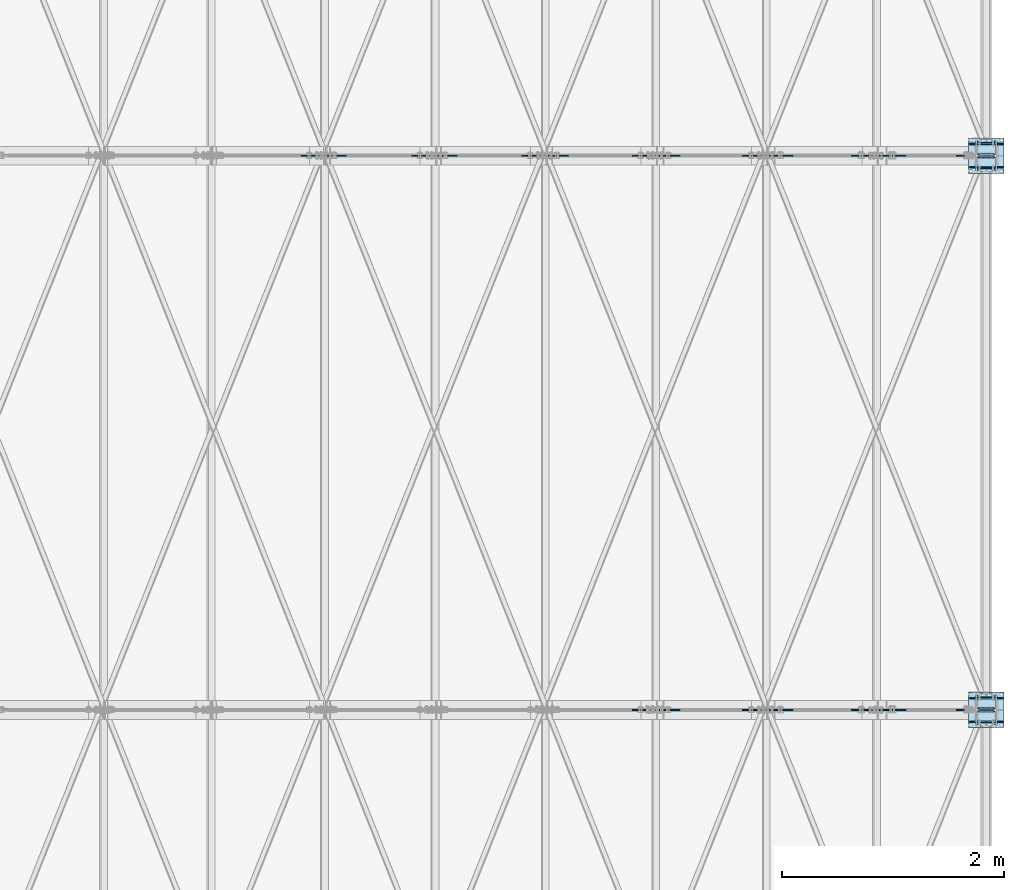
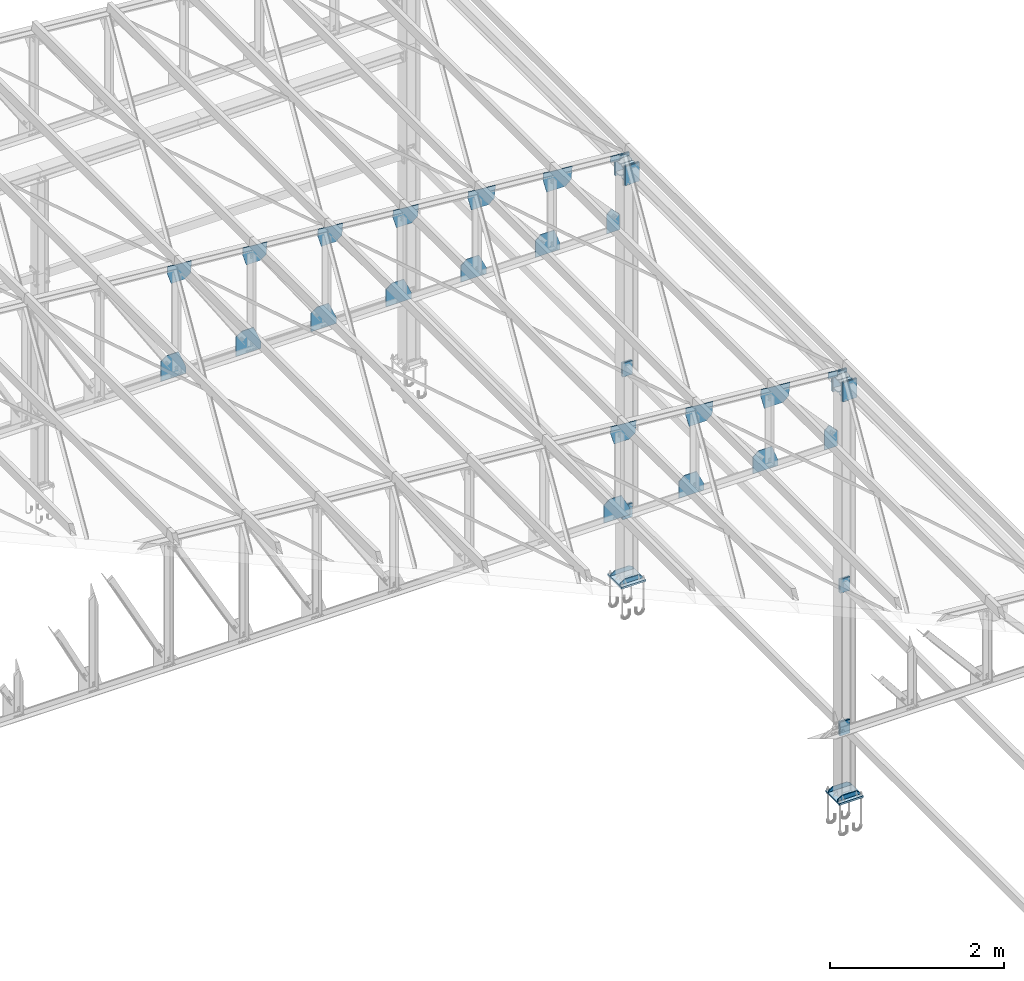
# One storey, part 8 of 251: 52 plates.
"""IFC4 building model written with IfcOpenShell, lengths in metres."""

from ifc_helpers import new_model, si_unit, frame, origin_with_axes, place, context, project, spatial, polyline, outline, extrude, type_object, element, save


model = new_model("IFC4")

# Units and contexts
model_context = context("Model", 3, precision=1e-05, world=origin_with_axes())
ifc_project = project(units=[si_unit("LENGTHUNIT", "METRE"), si_unit("AREAUNIT", "SQUARE_METRE"), si_unit("VOLUMEUNIT", "CUBIC_METRE"), si_unit("MASSUNIT", "GRAM", prefix="KILO"), si_unit("TIMEUNIT", "SECOND"), si_unit("PLANEANGLEUNIT", "RADIAN"), si_unit("SOLIDANGLEUNIT", "STERADIAN"), si_unit("THERMODYNAMICTEMPERATUREUNIT", "DEGREE_CELSIUS")], contexts=[model_context])

# Site, building, storey
placement_1 = place(None, origin_with_axes())
site = spatial("IfcSite", under=ifc_project, at=placement_1, Name="Italia", CompositionType="ELEMENT")
building = spatial("IfcBuilding", under=site, at=placement_1, Name="Deposito", CompositionType="ELEMENT")
storey = spatial("IfcBuildingStorey", under=building, at=placement_1, Name="Storey 0", CompositionType="ELEMENT", Elevation=0.0)

# Plates
plate_type_1 = type_object("IfcPlateType", Name="Collegamenti -001_-002 -002_-001 -002_-003 -003_-002 -003_-004 -004_-003 -004_-008 -008_-004 -009_-010 -010_-009 -010_-011 -011_-010 -011_-012 -012_-011 -012_-016 -016_-012", PredefinedType="SHEET")
placement_2 = place(placement_1, origin_with_axes())
plate_1_placement = place(placement_2, origin_with_axes())
element("IfcPlate", 1, at=plate_1_placement, inside=storey, type_object=plate_type_1, Name="Collegamenti -001_-002 -002_-001 -002_-003 -003_-002 -003_-004 -004_-003 -004_-008 -008_-004 -009_-010 -010_-009 -010_-011 -011_-010 -011_-012 -012_-011 -012_-016 -016_-012", context=model_context, shape_type="SweptSolid", body=[
    extrude(outline(polyline([(0.0, 0.0), (-0.132, 0.0), (-0.132, 0.192), (0.0, 0.192), (0.0, 0.0)])), frame((19.934, 9.982, 0.904), z_axis=(0.0, 1.0, 0.0), x_axis=(-1.0, 0.0, 0.0)), (0.0, 0.0, 1.0), 0.0149994),
])
plate_type_2 = type_object("IfcPlateType", Name="Collegamenti -001_-002 -002_-001 -002_-003 -003_-002 -003_-004 -004_-003 -004_-008 -008_-004 -009_-010 -010_-009 -010_-011 -011_-010 -011_-012 -012_-011 -012_-016 -016_-012", PredefinedType="SHEET")
plate_2_placement = place(placement_2, origin_with_axes())
element("IfcPlate", 2, at=plate_2_placement, inside=storey, type_object=plate_type_2, Name="Collegamenti -001_-002 -002_-001 -002_-003 -003_-002 -003_-004 -004_-003 -004_-008 -008_-004 -009_-010 -010_-009 -010_-011 -011_-010 -011_-012 -012_-011 -012_-016 -016_-012", context=model_context, shape_type="SweptSolid", body=[
    extrude(outline(polyline([(0.0, 0.0), (-0.132, 0.0), (-0.132, 0.192), (0.0, 0.192), (0.0, 0.0)])), frame((20.066, 10.018, 0.904), z_axis=(0.0, -1.0, 0.0), x_axis=(1.0, 0.0, 0.0)), (0.0, 0.0, 1.0), 0.0149994),
])
plate_type_3 = type_object("IfcPlateType", Name="Collegamenti -001_-002 -002_-001 -002_-003 -003_-002 -003_-004 -004_-003 -004_-008 -008_-004 -009_-010 -010_-009 -010_-011 -011_-010 -011_-012 -012_-011 -012_-016 -016_-012", PredefinedType="SHEET")
plate_3_placement = place(placement_2, origin_with_axes())
element("IfcPlate", 3, at=plate_3_placement, inside=storey, type_object=plate_type_3, Name="Collegamenti -001_-002 -002_-001 -002_-003 -003_-002 -003_-004 -004_-003 -004_-008 -008_-004 -009_-010 -010_-009 -010_-011 -011_-010 -011_-012 -012_-011 -012_-016 -016_-012", context=model_context, shape_type="SweptSolid", body=[
    extrude(outline(polyline([(0.0, 0.0), (-0.132, 0.0), (-0.132, 0.192), (0.0, 0.192), (0.0, 0.0)])), frame((19.934, 14.982, 0.904), z_axis=(0.0, 1.0, 0.0), x_axis=(-1.0, 0.0, 0.0)), (0.0, 0.0, 1.0), 0.0149994),
])
plate_type_4 = type_object("IfcPlateType", Name="Collegamenti -001_-002 -002_-001 -002_-003 -003_-002 -003_-004 -004_-003 -004_-008 -008_-004 -009_-010 -010_-009 -010_-011 -011_-010 -011_-012 -012_-011 -012_-016 -016_-012", PredefinedType="SHEET")
plate_4_placement = place(placement_2, origin_with_axes())
element("IfcPlate", 4, at=plate_4_placement, inside=storey, type_object=plate_type_4, Name="Collegamenti -001_-002 -002_-001 -002_-003 -003_-002 -003_-004 -004_-003 -004_-008 -008_-004 -009_-010 -010_-009 -010_-011 -011_-010 -011_-012 -012_-011 -012_-016 -016_-012", context=model_context, shape_type="SweptSolid", body=[
    extrude(outline(polyline([(0.0, 0.0), (-0.132, 0.0), (-0.132, 0.192), (0.0, 0.192), (0.0, 0.0)])), frame((20.066, 15.018, 0.904), z_axis=(0.0, -1.0, 0.0), x_axis=(1.0, 0.0, 0.0)), (0.0, 0.0, 1.0), 0.0149994),
])
plate_type_5 = type_object("IfcPlateType", Name="Collegamenti -001_-002 -002_-001 -002_-003 -003_-002 -003_-004 -004_-003 -004_-008 -008_-004 -009_-010 -010_-009 -010_-011 -011_-010 -011_-012 -012_-011 -012_-016 -016_-012", PredefinedType="SHEET")
plate_5_placement = place(placement_2, origin_with_axes())
element("IfcPlate", 5, at=plate_5_placement, inside=storey, type_object=plate_type_5, Name="Collegamenti -001_-002 -002_-001 -002_-003 -003_-002 -003_-004 -004_-003 -004_-008 -008_-004 -009_-010 -010_-009 -010_-011 -011_-010 -011_-012 -012_-011 -012_-016 -016_-012", context=model_context, shape_type="SweptSolid", body=[
    extrude(outline(polyline([(0.0, 0.0), (-0.132, 0.0), (-0.132, 0.192), (0.0, 0.192), (0.0, 0.0)])), frame((19.934, 9.982, 2.904), z_axis=(0.0, 1.0, 0.0), x_axis=(-1.0, 0.0, 0.0)), (0.0, 0.0, 1.0), 0.0149994),
])
plate_type_6 = type_object("IfcPlateType", Name="Collegamenti -001_-002 -002_-001 -002_-003 -003_-002 -003_-004 -004_-003 -004_-008 -008_-004 -009_-010 -010_-009 -010_-011 -011_-010 -011_-012 -012_-011 -012_-016 -016_-012", PredefinedType="SHEET")
plate_6_placement = place(placement_2, origin_with_axes())
element("IfcPlate", 6, at=plate_6_placement, inside=storey, type_object=plate_type_6, Name="Collegamenti -001_-002 -002_-001 -002_-003 -003_-002 -003_-004 -004_-003 -004_-008 -008_-004 -009_-010 -010_-009 -010_-011 -011_-010 -011_-012 -012_-011 -012_-016 -016_-012", context=model_context, shape_type="SweptSolid", body=[
    extrude(outline(polyline([(0.0, 0.0), (-0.132, 0.0), (-0.132, 0.192), (0.0, 0.192), (0.0, 0.0)])), frame((20.066, 10.018, 2.904), z_axis=(0.0, -1.0, 0.0), x_axis=(1.0, 0.0, 0.0)), (0.0, 0.0, 1.0), 0.0149994),
])
plate_type_7 = type_object("IfcPlateType", Name="Collegamenti -001_-002 -002_-001 -002_-003 -003_-002 -003_-004 -004_-003 -004_-008 -008_-004 -009_-010 -010_-009 -010_-011 -011_-010 -011_-012 -012_-011 -012_-016 -016_-012", PredefinedType="SHEET")
plate_7_placement = place(placement_2, origin_with_axes())
element("IfcPlate", 7, at=plate_7_placement, inside=storey, type_object=plate_type_7, Name="Collegamenti -001_-002 -002_-001 -002_-003 -003_-002 -003_-004 -004_-003 -004_-008 -008_-004 -009_-010 -010_-009 -010_-011 -011_-010 -011_-012 -012_-011 -012_-016 -016_-012", context=model_context, shape_type="SweptSolid", body=[
    extrude(outline(polyline([(0.0, 0.0), (-0.132, 0.0), (-0.132, 0.192), (0.0, 0.192), (0.0, 0.0)])), frame((19.934, 14.982, 2.904), z_axis=(0.0, 1.0, 0.0), x_axis=(-1.0, 0.0, 0.0)), (0.0, 0.0, 1.0), 0.0149994),
])
plate_type_8 = type_object("IfcPlateType", Name="Collegamenti -001_-002 -002_-001 -002_-003 -003_-002 -003_-004 -004_-003 -004_-008 -008_-004 -009_-010 -010_-009 -010_-011 -011_-010 -011_-012 -012_-011 -012_-016 -016_-012", PredefinedType="SHEET")
plate_8_placement = place(placement_2, origin_with_axes())
element("IfcPlate", 8, at=plate_8_placement, inside=storey, type_object=plate_type_8, Name="Collegamenti -001_-002 -002_-001 -002_-003 -003_-002 -003_-004 -004_-003 -004_-008 -008_-004 -009_-010 -010_-009 -010_-011 -011_-010 -011_-012 -012_-011 -012_-016 -016_-012", context=model_context, shape_type="SweptSolid", body=[
    extrude(outline(polyline([(0.0, 0.0), (-0.132, 0.0), (-0.132, 0.192), (0.0, 0.192), (0.0, 0.0)])), frame((20.066, 15.018, 2.904), z_axis=(0.0, -1.0, 0.0), x_axis=(1.0, 0.0, 0.0)), (0.0, 0.0, 1.0), 0.0149994),
])
plate_type_9 = type_object("IfcPlateType", Name="Collegamenti -064_-065 -065_-064 -065_-066 -066_-065 -066_-067 -067_-066 -067_-068 -068_-067", PredefinedType="SHEET")
plate_9_placement = place(placement_2, origin_with_axes())
element("IfcPlate", 9, at=plate_9_placement, inside=storey, type_object=plate_type_9, Name="Collegamenti -064_-065 -065_-064 -065_-066 -066_-065 -066_-067 -067_-066 -067_-068 -068_-067", context=model_context, shape_type="SweptSolid", body=[
    extrude(outline(polyline([(0.0, 0.0), (-0.189999, 0.0), (-0.189999, 0.266001), (0.0, 0.266001), (0.0, 0.0)])), frame((19.905, 9.885, 5.667), z_axis=(0.0, 1.0, 0.0), x_axis=(-1.0, 0.0, 0.0)), (0.0, 0.0, 1.0), 0.0149994),
])
plate_type_10 = type_object("IfcPlateType", Name="Collegamenti -064_-065 -065_-064 -065_-066 -066_-065 -066_-067 -067_-066 -067_-068 -068_-067", PredefinedType="SHEET")
plate_10_placement = place(placement_2, origin_with_axes())
element("IfcPlate", 10, at=plate_10_placement, inside=storey, type_object=plate_type_10, Name="Collegamenti -064_-065 -065_-064 -065_-066 -066_-065 -066_-067 -067_-066 -067_-068 -068_-067", context=model_context, shape_type="SweptSolid", body=[
    extrude(outline(polyline([(0.0, 0.0), (-0.188999, 0.0), (-0.188999, 0.266001), (0.0, 0.266001), (0.0, 0.0)])), frame((19.9055, 9.87, 5.667), z_axis=(0.0, 1.0, 0.0), x_axis=(-1.0, 0.0, 0.0)), (0.0, 0.0, 1.0), 0.0150003),
])
plate_type_11 = type_object("IfcPlateType", Name="Collegamenti -064_-065 -065_-064 -065_-066 -066_-065 -066_-067 -067_-066 -067_-068 -068_-067", PredefinedType="SHEET")
plate_11_placement = place(placement_2, origin_with_axes())
element("IfcPlate", 11, at=plate_11_placement, inside=storey, type_object=plate_type_11, Name="Collegamenti -064_-065 -065_-064 -065_-066 -066_-065 -066_-067 -067_-066 -067_-068 -068_-067", context=model_context, shape_type="SweptSolid", body=[
    extrude(outline(polyline([(0.0, 0.0), (0.0790005, 0.0), (0.0970001, -0.0179996), (0.0970001, -0.151999), (0.0790005, -0.169998), (0.0, -0.169998), (0.0, 0.0)])), frame((19.915, 9.9, 5.875), z_axis=(0.0, 0.0, 1.0), x_axis=(0.0, 1.0, 0.0)), (0.0, 0.0, 1.0), 0.0150003),
])
plate_type_12 = type_object("IfcPlateType", Name="Collegamenti -064_-065 -065_-064 -065_-066 -066_-065 -066_-067 -067_-066 -067_-068 -068_-067", PredefinedType="SHEET")
plate_12_placement = place(placement_2, origin_with_axes())
element("IfcPlate", 12, at=plate_12_placement, inside=storey, type_object=plate_type_12, Name="Collegamenti -064_-065 -065_-064 -065_-066 -066_-065 -066_-067 -067_-066 -067_-068 -068_-067", context=model_context, shape_type="SweptSolid", body=[
    extrude(outline(polyline([(0.0, 0.0), (0.0790005, 0.0), (0.0970001, -0.0179996), (0.0970001, -0.151999), (0.0790005, -0.169998), (0.0, -0.169998), (0.0, 0.0)])), frame((19.915, 9.9, 5.71), z_axis=(0.0, 0.0, 1.0), x_axis=(0.0, 1.0, 0.0)), (0.0, 0.0, 1.0), 0.0150003),
])
plate_type_13 = type_object("IfcPlateType", Name="Collegamenti -064_-065 -065_-064 -065_-066 -066_-065 -066_-067 -067_-066 -067_-068 -068_-067", PredefinedType="SHEET")
plate_13_placement = place(placement_2, origin_with_axes())
element("IfcPlate", 13, at=plate_13_placement, inside=storey, type_object=plate_type_13, Name="Collegamenti -064_-065 -065_-064 -065_-066 -066_-065 -066_-067 -067_-066 -067_-068 -068_-067", context=model_context, shape_type="SweptSolid", body=[
    extrude(outline(polyline([(0.0, 0.0), (-0.189999, 0.0), (-0.189999, 0.266001), (0.0, 0.266001), (0.0, 0.0)])), frame((20.095, 10.115, 5.667), z_axis=(0.0, -1.0, 0.0), x_axis=(1.0, 0.0, 0.0)), (0.0, 0.0, 1.0), 0.0149994),
])
plate_type_14 = type_object("IfcPlateType", Name="Collegamenti -064_-065 -065_-064 -065_-066 -066_-065 -066_-067 -067_-066 -067_-068 -068_-067", PredefinedType="SHEET")
plate_14_placement = place(placement_2, origin_with_axes())
element("IfcPlate", 14, at=plate_14_placement, inside=storey, type_object=plate_type_14, Name="Collegamenti -064_-065 -065_-064 -065_-066 -066_-065 -066_-067 -067_-066 -067_-068 -068_-067", context=model_context, shape_type="SweptSolid", body=[
    extrude(outline(polyline([(0.0, 0.0), (-0.188999, 0.0), (-0.188999, 0.266001), (0.0, 0.266001), (0.0, 0.0)])), frame((20.0945, 10.13, 5.667), z_axis=(0.0, -1.0, 0.0), x_axis=(1.0, 0.0, 0.0)), (0.0, 0.0, 1.0), 0.0150003),
])
plate_type_15 = type_object("IfcPlateType", Name="Collegamenti -064_-065 -065_-064 -065_-066 -066_-065 -066_-067 -067_-066 -067_-068 -068_-067", PredefinedType="SHEET")
plate_15_placement = place(placement_2, origin_with_axes())
element("IfcPlate", 15, at=plate_15_placement, inside=storey, type_object=plate_type_15, Name="Collegamenti -064_-065 -065_-064 -065_-066 -066_-065 -066_-067 -067_-066 -067_-068 -068_-067", context=model_context, shape_type="SweptSolid", body=[
    extrude(outline(polyline([(0.0, 0.0), (-0.0790005, 0.0), (-0.0970001, 0.0179996), (-0.0970001, 0.151999), (-0.0790005, 0.169998), (0.0, 0.169998), (0.0, 0.0)])), frame((20.085, 10.1, 5.875), z_axis=(0.0, 0.0, 1.0), x_axis=(0.0, 1.0, 0.0)), (0.0, 0.0, 1.0), 0.0150003),
])
plate_type_16 = type_object("IfcPlateType", Name="Collegamenti -064_-065 -065_-064 -065_-066 -066_-065 -066_-067 -067_-066 -067_-068 -068_-067", PredefinedType="SHEET")
plate_16_placement = place(placement_2, origin_with_axes())
element("IfcPlate", 16, at=plate_16_placement, inside=storey, type_object=plate_type_16, Name="Collegamenti -064_-065 -065_-064 -065_-066 -066_-065 -066_-067 -067_-066 -067_-068 -068_-067", context=model_context, shape_type="SweptSolid", body=[
    extrude(outline(polyline([(0.0, 0.0), (-0.0790005, 0.0), (-0.0970001, 0.0179996), (-0.0970001, 0.151999), (-0.0790005, 0.169998), (0.0, 0.169998), (0.0, 0.0)])), frame((20.085, 10.1, 5.71), z_axis=(0.0, 0.0, 1.0), x_axis=(0.0, 1.0, 0.0)), (0.0, 0.0, 1.0), 0.0150003),
])
plate_type_17 = type_object("IfcPlateType", Name="Collegamenti -064_-065 -065_-064 -065_-066 -066_-065 -066_-067 -067_-066 -067_-068 -068_-067", PredefinedType="SHEET")
plate_17_placement = place(placement_2, origin_with_axes())
element("IfcPlate", 17, at=plate_17_placement, inside=storey, type_object=plate_type_17, Name="Collegamenti -064_-065 -065_-064 -065_-066 -066_-065 -066_-067 -067_-066 -067_-068 -068_-067", context=model_context, shape_type="SweptSolid", body=[
    extrude(outline(polyline([(0.0, 0.0), (-0.189999, 0.0), (-0.189999, 0.266001), (0.0, 0.266001), (0.0, 0.0)])), frame((19.905, 14.885, 5.667), z_axis=(0.0, 1.0, 0.0), x_axis=(-1.0, 0.0, 0.0)), (0.0, 0.0, 1.0), 0.0149994),
])
plate_type_18 = type_object("IfcPlateType", Name="Collegamenti -064_-065 -065_-064 -065_-066 -066_-065 -066_-067 -067_-066 -067_-068 -068_-067", PredefinedType="SHEET")
plate_18_placement = place(placement_2, origin_with_axes())
element("IfcPlate", 18, at=plate_18_placement, inside=storey, type_object=plate_type_18, Name="Collegamenti -064_-065 -065_-064 -065_-066 -066_-065 -066_-067 -067_-066 -067_-068 -068_-067", context=model_context, shape_type="SweptSolid", body=[
    extrude(outline(polyline([(0.0, 0.0), (-0.188999, 0.0), (-0.188999, 0.266001), (0.0, 0.266001), (0.0, 0.0)])), frame((19.9055, 14.87, 5.667), z_axis=(0.0, 1.0, 0.0), x_axis=(-1.0, 0.0, 0.0)), (0.0, 0.0, 1.0), 0.0150003),
])
plate_type_19 = type_object("IfcPlateType", Name="Collegamenti -064_-065 -065_-064 -065_-066 -066_-065 -066_-067 -067_-066 -067_-068 -068_-067", PredefinedType="SHEET")
plate_19_placement = place(placement_2, origin_with_axes())
element("IfcPlate", 19, at=plate_19_placement, inside=storey, type_object=plate_type_19, Name="Collegamenti -064_-065 -065_-064 -065_-066 -066_-065 -066_-067 -067_-066 -067_-068 -068_-067", context=model_context, shape_type="SweptSolid", body=[
    extrude(outline(polyline([(0.0, 0.0), (0.0790005, 0.0), (0.0970001, -0.0179996), (0.0970001, -0.151999), (0.0790005, -0.169998), (0.0, -0.169998), (0.0, 0.0)])), frame((19.915, 14.9, 5.875), z_axis=(0.0, 0.0, 1.0), x_axis=(0.0, 1.0, 0.0)), (0.0, 0.0, 1.0), 0.0150003),
])
plate_type_20 = type_object("IfcPlateType", Name="Collegamenti -064_-065 -065_-064 -065_-066 -066_-065 -066_-067 -067_-066 -067_-068 -068_-067", PredefinedType="SHEET")
plate_20_placement = place(placement_2, origin_with_axes())
element("IfcPlate", 20, at=plate_20_placement, inside=storey, type_object=plate_type_20, Name="Collegamenti -064_-065 -065_-064 -065_-066 -066_-065 -066_-067 -067_-066 -067_-068 -068_-067", context=model_context, shape_type="SweptSolid", body=[
    extrude(outline(polyline([(0.0, 0.0), (0.0790005, 0.0), (0.0970001, -0.0179996), (0.0970001, -0.151999), (0.0790005, -0.169998), (0.0, -0.169998), (0.0, 0.0)])), frame((19.915, 14.9, 5.71), z_axis=(0.0, 0.0, 1.0), x_axis=(0.0, 1.0, 0.0)), (0.0, 0.0, 1.0), 0.0150003),
])
plate_type_21 = type_object("IfcPlateType", Name="Collegamenti -064_-065 -065_-064 -065_-066 -066_-065 -066_-067 -067_-066 -067_-068 -068_-067", PredefinedType="SHEET")
plate_21_placement = place(placement_2, origin_with_axes())
element("IfcPlate", 21, at=plate_21_placement, inside=storey, type_object=plate_type_21, Name="Collegamenti -064_-065 -065_-064 -065_-066 -066_-065 -066_-067 -067_-066 -067_-068 -068_-067", context=model_context, shape_type="SweptSolid", body=[
    extrude(outline(polyline([(0.0, 0.0), (-0.189999, 0.0), (-0.189999, 0.266001), (0.0, 0.266001), (0.0, 0.0)])), frame((20.095, 15.115, 5.667), z_axis=(0.0, -1.0, 0.0), x_axis=(1.0, 0.0, 0.0)), (0.0, 0.0, 1.0), 0.0149994),
])
plate_type_22 = type_object("IfcPlateType", Name="Collegamenti -064_-065 -065_-064 -065_-066 -066_-065 -066_-067 -067_-066 -067_-068 -068_-067", PredefinedType="SHEET")
plate_22_placement = place(placement_2, origin_with_axes())
element("IfcPlate", 22, at=plate_22_placement, inside=storey, type_object=plate_type_22, Name="Collegamenti -064_-065 -065_-064 -065_-066 -066_-065 -066_-067 -067_-066 -067_-068 -068_-067", context=model_context, shape_type="SweptSolid", body=[
    extrude(outline(polyline([(0.0, 0.0), (-0.188999, 0.0), (-0.188999, 0.266001), (0.0, 0.266001), (0.0, 0.0)])), frame((20.0945, 15.13, 5.667), z_axis=(0.0, -1.0, 0.0), x_axis=(1.0, 0.0, 0.0)), (0.0, 0.0, 1.0), 0.0150003),
])
plate_type_23 = type_object("IfcPlateType", Name="Collegamenti -064_-065 -065_-064 -065_-066 -066_-065 -066_-067 -067_-066 -067_-068 -068_-067", PredefinedType="SHEET")
plate_23_placement = place(placement_2, origin_with_axes())
element("IfcPlate", 23, at=plate_23_placement, inside=storey, type_object=plate_type_23, Name="Collegamenti -064_-065 -065_-064 -065_-066 -066_-065 -066_-067 -067_-066 -067_-068 -068_-067", context=model_context, shape_type="SweptSolid", body=[
    extrude(outline(polyline([(0.0, 0.0), (-0.0790005, 0.0), (-0.0970001, 0.0179996), (-0.0970001, 0.151999), (-0.0790005, 0.169998), (0.0, 0.169998), (0.0, 0.0)])), frame((20.085, 15.1, 5.875), z_axis=(0.0, 0.0, 1.0), x_axis=(0.0, 1.0, 0.0)), (0.0, 0.0, 1.0), 0.0150003),
])
plate_type_24 = type_object("IfcPlateType", Name="Collegamenti -064_-065 -065_-064 -065_-066 -066_-065 -066_-067 -067_-066 -067_-068 -068_-067", PredefinedType="SHEET")
plate_24_placement = place(placement_2, origin_with_axes())
element("IfcPlate", 24, at=plate_24_placement, inside=storey, type_object=plate_type_24, Name="Collegamenti -064_-065 -065_-064 -065_-066 -066_-065 -066_-067 -067_-066 -067_-068 -068_-067", context=model_context, shape_type="SweptSolid", body=[
    extrude(outline(polyline([(0.0, 0.0), (-0.0790005, 0.0), (-0.0970001, 0.0179996), (-0.0970001, 0.151999), (-0.0790005, 0.169998), (0.0, 0.169998), (0.0, 0.0)])), frame((20.085, 15.1, 5.71), z_axis=(0.0, 0.0, 1.0), x_axis=(0.0, 1.0, 0.0)), (0.0, 0.0, 1.0), 0.0150003),
])
plate_type_25 = type_object("IfcPlateType", Name="Collegamenti 0014_-001 0016_-054 0018_-056 0032_-002 0033_-058 0047_-003 0048_-060 0062_-004 0063_-005 0079_-008", PredefinedType="SHEET")
plate_25_placement = place(placement_2, origin_with_axes())
element("IfcPlate", 25, at=plate_25_placement, inside=storey, type_object=plate_type_25, Name="Collegamenti 0014_-001 0016_-054 0018_-056 0032_-002 0033_-058 0047_-003 0048_-060 0062_-004 0063_-005 0079_-008", context=model_context, shape_type="SweptSolid", body=[
    extrude(outline(polyline([(0.0, 0.0), (0.32, 0.0), (0.32, -0.32), (0.0, -0.32), (0.0, 0.0)])), frame((20.16, 9.84, 0.075), z_axis=(0.0, 0.0, -1.0), x_axis=(0.0, 1.0, 0.0)), (0.0, 0.0, 1.0), 0.025),
])
plate_type_26 = type_object("IfcPlateType", Name="Collegamenti 0014_-001 0016_-054 0018_-056 0032_-002 0033_-058 0047_-003 0048_-060 0062_-004 0063_-005 0079_-008", PredefinedType="SHEET")
plate_26_placement = place(placement_2, origin_with_axes())
element("IfcPlate", 26, at=plate_26_placement, inside=storey, type_object=plate_type_26, Name="Collegamenti 0014_-001 0016_-054 0018_-056 0032_-002 0033_-058 0047_-003 0048_-060 0062_-004 0063_-005 0079_-008", context=model_context, shape_type="SweptSolid", body=[
    extrude(outline(polyline([(0.0, 0.0), (0.0550003, 0.04), (0.244999, 0.04), (0.299999, 0.0), (0.299999, -0.02), (0.0, -0.02), (0.0, 0.0)])), frame((20.15, 10.1, 0.095), z_axis=(0.0, 1.0, 0.0), x_axis=(-1.0, 0.0, 0.0)), (0.0, 0.0, 1.0), 0.00999928),
])
plate_type_27 = type_object("IfcPlateType", Name="Collegamenti 0014_-001 0016_-054 0018_-056 0032_-002 0033_-058 0047_-003 0048_-060 0062_-004 0063_-005 0079_-008", PredefinedType="SHEET")
plate_27_placement = place(placement_2, origin_with_axes())
element("IfcPlate", 27, at=plate_27_placement, inside=storey, type_object=plate_type_27, Name="Collegamenti 0014_-001 0016_-054 0018_-056 0032_-002 0033_-058 0047_-003 0048_-060 0062_-004 0063_-005 0079_-008", context=model_context, shape_type="SweptSolid", body=[
    extrude(outline(polyline([(0.0, 0.0), (0.0550003, 0.04), (0.244999, 0.04), (0.299999, 0.0), (0.299999, -0.02), (0.0, -0.02), (0.0, 0.0)])), frame((20.15, 9.89, 0.095), z_axis=(0.0, 1.0, 0.0), x_axis=(-1.0, 0.0, 0.0)), (0.0, 0.0, 1.0), 0.00999928),
])
plate_type_28 = type_object("IfcPlateType", Name="Collegamenti 0014_-001 0016_-054 0018_-056 0032_-002 0033_-058 0047_-003 0048_-060 0062_-004 0063_-005 0079_-008", PredefinedType="SHEET")
plate_28_placement = place(placement_2, origin_with_axes())
element("IfcPlate", 28, at=plate_28_placement, inside=storey, type_object=plate_type_28, Name="Collegamenti 0014_-001 0016_-054 0018_-056 0032_-002 0033_-058 0047_-003 0048_-060 0062_-004 0063_-005 0079_-008", context=model_context, shape_type="SweptSolid", body=[
    extrude(outline(polyline([(0.0, 0.0), (0.32, 0.0), (0.32, -0.32), (0.0, -0.32), (0.0, 0.0)])), frame((20.16, 14.84, 0.075), z_axis=(0.0, 0.0, -1.0), x_axis=(0.0, 1.0, 0.0)), (0.0, 0.0, 1.0), 0.025),
])
plate_type_29 = type_object("IfcPlateType", Name="Collegamenti 0014_-001 0016_-054 0018_-056 0032_-002 0033_-058 0047_-003 0048_-060 0062_-004 0063_-005 0079_-008", PredefinedType="SHEET")
plate_29_placement = place(placement_2, origin_with_axes())
element("IfcPlate", 29, at=plate_29_placement, inside=storey, type_object=plate_type_29, Name="Collegamenti 0014_-001 0016_-054 0018_-056 0032_-002 0033_-058 0047_-003 0048_-060 0062_-004 0063_-005 0079_-008", context=model_context, shape_type="SweptSolid", body=[
    extrude(outline(polyline([(0.0, 0.0), (0.0550003, 0.04), (0.244999, 0.04), (0.299999, 0.0), (0.299999, -0.02), (0.0, -0.02), (0.0, 0.0)])), frame((20.15, 15.1, 0.095), z_axis=(0.0, 1.0, 0.0), x_axis=(-1.0, 0.0, 0.0)), (0.0, 0.0, 1.0), 0.00999928),
])
plate_type_30 = type_object("IfcPlateType", Name="Collegamenti 0014_-001 0016_-054 0018_-056 0032_-002 0033_-058 0047_-003 0048_-060 0062_-004 0063_-005 0079_-008", PredefinedType="SHEET")
plate_30_placement = place(placement_2, origin_with_axes())
element("IfcPlate", 30, at=plate_30_placement, inside=storey, type_object=plate_type_30, Name="Collegamenti 0014_-001 0016_-054 0018_-056 0032_-002 0033_-058 0047_-003 0048_-060 0062_-004 0063_-005 0079_-008", context=model_context, shape_type="SweptSolid", body=[
    extrude(outline(polyline([(0.0, 0.0), (0.0550003, 0.04), (0.244999, 0.04), (0.299999, 0.0), (0.299999, -0.02), (0.0, -0.02), (0.0, 0.0)])), frame((20.15, 14.89, 0.095), z_axis=(0.0, 1.0, 0.0), x_axis=(-1.0, 0.0, 0.0)), (0.0, 0.0, 1.0), 0.00999928),
])
plate_type_31 = type_object("IfcPlateType", Name="Reticolare 4", PredefinedType="SHEET")
plate_31_placement = place(placement_2, origin_with_axes())
element("IfcPlate", 31, at=plate_31_placement, inside=storey, type_object=plate_type_31, Name="Reticolare 4", context=model_context, shape_type="SweptSolid", body=[
    extrude(outline(polyline([(0.0, 0.0), (0.0663548, 0.0608029), (0.173689, -0.0563316), (0.173689, -0.267609), (0.0, -0.267609), (0.0, 0.0)])), frame((19.7313, 10.005, 5.24509), z_axis=(0.0, -1.0, 0.0), x_axis=(1.0, 0.0, 0.0)), (0.0, 0.0, 1.0), 0.0100002),
])
plate_type_32 = type_object("IfcPlateType", Name="Reticolare 4", PredefinedType="SHEET")
plate_32_placement = place(placement_2, origin_with_axes())
element("IfcPlate", 32, at=plate_32_placement, inside=storey, type_object=plate_type_32, Name="Reticolare 4", context=model_context, shape_type="SweptSolid", body=[
    extrude(outline(polyline([(0.0, 0.0), (-0.349876, 0.0), (-0.349876, 0.246499), (-0.269442, 0.305914), (-0.111483, 0.305914), (0.0, 0.0899997), (0.0, 0.0)])), frame((17.1554, 10.005, 4.97748), z_axis=(0.0, -1.0, 0.0), x_axis=(1.0, 0.0, 0.0)), (0.0, 0.0, 1.0), 0.0100002),
])
plate_type_33 = type_object("IfcPlateType", Name="Reticolare 4", PredefinedType="SHEET")
plate_33_placement = place(placement_2, origin_with_axes())
element("IfcPlate", 33, at=plate_33_placement, inside=storey, type_object=plate_type_33, Name="Reticolare 4", context=model_context, shape_type="SweptSolid", body=[
    extrude(outline(polyline([(0.0, 0.0), (-0.335958, 0.0), (-0.335958, 0.232118), (-0.257479, 0.294094), (-0.0964832, 0.294094), (0.0, 0.0899997), (0.0, 0.0)])), frame((18.1366, 10.005, 4.97748), z_axis=(0.0, -1.0, 0.0), x_axis=(1.0, 0.0, 0.0)), (0.0, 0.0, 1.0), 0.0100002),
])
plate_type_34 = type_object("IfcPlateType", Name="Reticolare 4", PredefinedType="SHEET")
plate_34_placement = place(placement_2, origin_with_axes())
element("IfcPlate", 34, at=plate_34_placement, inside=storey, type_object=plate_type_34, Name="Reticolare 4", context=model_context, shape_type="SweptSolid", body=[
    extrude(outline(polyline([(0.0, 0.0), (-0.330614, 0.0), (-0.330614, 0.231134), (-0.254358, 0.295825), (-0.0784836, 0.295825), (0.0, 0.0899997), (0.0, 0.0)])), frame((19.1148, 10.005, 4.97748), z_axis=(0.0, -1.0, 0.0), x_axis=(1.0, 0.0, 0.0)), (0.0, 0.0, 1.0), 0.0100002),
])
plate_type_35 = type_object("IfcPlateType", Name="Reticolare 4", PredefinedType="SHEET")
plate_35_placement = place(placement_2, origin_with_axes())
element("IfcPlate", 35, at=plate_35_placement, inside=storey, type_object=plate_type_35, Name="Reticolare 4", context=model_context, shape_type="SweptSolid", body=[
    extrude(outline(polyline([(0.0, 0.0), (0.00697327, 0.0796957), (0.12484, 0.0693836), (0.12484, -0.010922), (0.11484, -0.010922), (0.0, 0.0)])), frame((19.7802, 10.005, 5.96153), z_axis=(0.0, -1.0, 0.0), x_axis=(1.0, 0.0, 0.0)), (0.0, 0.0, 1.0), 0.0100002),
])
plate_type_36 = type_object("IfcPlateType", Name="Reticolare 4", PredefinedType="SHEET")
plate_36_placement = place(placement_2, origin_with_axes())
element("IfcPlate", 36, at=plate_36_placement, inside=storey, type_object=plate_type_36, Name="Reticolare 4", context=model_context, shape_type="SweptSolid", body=[
    extrude(outline(polyline([(0.0, 0.0), (-0.0737286, -0.0675588), (-0.324436, -0.0675588), (-0.373413, 0.122975), (-0.365566, 0.212633), (0.015686, 0.179277), (0.0, 0.0)])), frame((19.2608, 10.005, 5.90663), z_axis=(0.0, -1.0, 0.0), x_axis=(1.0, 0.0, 0.0)), (0.0, 0.0, 1.0), 0.0100002),
])
plate_type_37 = type_object("IfcPlateType", Name="Reticolare 4", PredefinedType="SHEET")
plate_37_placement = place(placement_2, origin_with_axes())
element("IfcPlate", 37, at=plate_37_placement, inside=storey, type_object=plate_type_37, Name="Reticolare 4", context=model_context, shape_type="SweptSolid", body=[
    extrude(outline(polyline([(0.0, 0.0), (-0.0762558, -0.0646911), (-0.302103, -0.0646911), (-0.351078, 0.1147), (-0.343235, 0.204358), (0.0151367, 0.173005), (0.0, 0.0)])), frame((18.2422, 10.005, 6.00206), z_axis=(0.0, -1.0, 0.0), x_axis=(1.0, 0.0, 0.0)), (0.0, 0.0, 1.0), 0.0100002),
])
plate_type_38 = type_object("IfcPlateType", Name="Reticolare 4", PredefinedType="SHEET")
plate_38_placement = place(placement_2, origin_with_axes())
element("IfcPlate", 38, at=plate_38_placement, inside=storey, type_object=plate_type_38, Name="Reticolare 4", context=model_context, shape_type="SweptSolid", body=[
    extrude(outline(polyline([(0.0, 0.0), (-0.0784817, -0.061976), (-0.280317, -0.061976), (-0.329294, 0.103069), (-0.321447, 0.192726), (0.0142918, 0.163353), (0.0, 0.0)])), frame((17.2242, 10.005, 6.10085), z_axis=(0.0, -1.0, 0.0), x_axis=(1.0, 0.0, 0.0)), (0.0, 0.0, 1.0), 0.0100002),
])
plate_type_39 = type_object("IfcPlateType", Name="Reticolare 5", PredefinedType="SHEET")
plate_39_placement = place(placement_2, origin_with_axes())
element("IfcPlate", 39, at=plate_39_placement, inside=storey, type_object=plate_type_39, Name="Reticolare 5", context=model_context, shape_type="SweptSolid", body=[
    extrude(outline(polyline([(0.0, 0.0), (0.0663548, 0.0608029), (0.173689, -0.0563316), (0.173689, -0.267609), (0.0, -0.267609), (0.0, 0.0)])), frame((19.7313, 15.005, 5.24509), z_axis=(0.0, -1.0, 0.0), x_axis=(1.0, 0.0, 0.0)), (0.0, 0.0, 1.0), 0.0100002),
])
plate_type_40 = type_object("IfcPlateType", Name="Reticolare 5", PredefinedType="SHEET")
plate_40_placement = place(placement_2, origin_with_axes())
element("IfcPlate", 40, at=plate_40_placement, inside=storey, type_object=plate_type_40, Name="Reticolare 5", context=model_context, shape_type="SweptSolid", body=[
    extrude(outline(polyline([(0.0, 0.0), (-0.332019, 0.0), (-0.332019, 0.281458), (-0.247612, 0.33508), (-0.0964823, 0.33508), (0.0, 0.0899997), (0.0, 0.0)])), frame((14.1518, 15.005, 4.97748), z_axis=(0.0, -1.0, 0.0), x_axis=(1.0, 0.0, 0.0)), (0.0, 0.0, 1.0), 0.0100002),
])
plate_type_41 = type_object("IfcPlateType", Name="Reticolare 5", PredefinedType="SHEET")
plate_41_placement = place(placement_2, origin_with_axes())
element("IfcPlate", 41, at=plate_41_placement, inside=storey, type_object=plate_type_41, Name="Reticolare 5", context=model_context, shape_type="SweptSolid", body=[
    extrude(outline(polyline([(0.0, 0.0), (-0.332613, 0.0), (-0.332613, 0.27439), (-0.248927, 0.329132), (-0.0964823, 0.329132), (0.0, 0.0899997), (0.0, 0.0)])), frame((15.148, 15.005, 4.97748), z_axis=(0.0, -1.0, 0.0), x_axis=(1.0, 0.0, 0.0)), (0.0, 0.0, 1.0), 0.0100002),
])
plate_type_42 = type_object("IfcPlateType", Name="Reticolare 5", PredefinedType="SHEET")
plate_42_placement = place(placement_2, origin_with_axes())
element("IfcPlate", 42, at=plate_42_placement, inside=storey, type_object=plate_type_42, Name="Reticolare 5", context=model_context, shape_type="SweptSolid", body=[
    extrude(outline(polyline([(0.0, 0.0), (-0.333754, 0.0), (-0.333754, 0.260579), (-0.251593, 0.317585), (-0.0964832, 0.317585), (0.0, 0.0899997), (0.0, 0.0)])), frame((16.1442, 15.005, 4.97748), z_axis=(0.0, -1.0, 0.0), x_axis=(1.0, 0.0, 0.0)), (0.0, 0.0, 1.0), 0.0100002),
])
plate_type_43 = type_object("IfcPlateType", Name="Reticolare 5", PredefinedType="SHEET")
plate_43_placement = place(placement_2, origin_with_axes())
element("IfcPlate", 43, at=plate_43_placement, inside=storey, type_object=plate_type_43, Name="Reticolare 5", context=model_context, shape_type="SweptSolid", body=[
    extrude(outline(polyline([(0.0, 0.0), (-0.334877, 0.0), (-0.334877, 0.246499), (-0.254442, 0.305914), (-0.0964832, 0.305914), (0.0, 0.0899997), (0.0, 0.0)])), frame((17.1404, 15.005, 4.97748), z_axis=(0.0, -1.0, 0.0), x_axis=(1.0, 0.0, 0.0)), (0.0, 0.0, 1.0), 0.0100002),
])
plate_type_44 = type_object("IfcPlateType", Name="Reticolare 5", PredefinedType="SHEET")
plate_44_placement = place(placement_2, origin_with_axes())
element("IfcPlate", 44, at=plate_44_placement, inside=storey, type_object=plate_type_44, Name="Reticolare 5", context=model_context, shape_type="SweptSolid", body=[
    extrude(outline(polyline([(0.0, 0.0), (-0.335958, 0.0), (-0.335958, 0.232118), (-0.257479, 0.294094), (-0.0964832, 0.294094), (0.0, 0.0899997), (0.0, 0.0)])), frame((18.1366, 15.005, 4.97748), z_axis=(0.0, -1.0, 0.0), x_axis=(1.0, 0.0, 0.0)), (0.0, 0.0, 1.0), 0.0100002),
])
plate_type_45 = type_object("IfcPlateType", Name="Reticolare 5", PredefinedType="SHEET")
plate_45_placement = place(placement_2, origin_with_axes())
element("IfcPlate", 45, at=plate_45_placement, inside=storey, type_object=plate_type_45, Name="Reticolare 5", context=model_context, shape_type="SweptSolid", body=[
    extrude(outline(polyline([(0.0, 0.0), (-0.330614, 0.0), (-0.330614, 0.231134), (-0.254358, 0.295825), (-0.0784836, 0.295825), (0.0, 0.0899997), (0.0, 0.0)])), frame((19.1148, 15.005, 4.97748), z_axis=(0.0, -1.0, 0.0), x_axis=(1.0, 0.0, 0.0)), (0.0, 0.0, 1.0), 0.0100002),
])
plate_type_46 = type_object("IfcPlateType", Name="Reticolare 5", PredefinedType="SHEET")
plate_46_placement = place(placement_2, origin_with_axes())
element("IfcPlate", 46, at=plate_46_placement, inside=storey, type_object=plate_type_46, Name="Reticolare 5", context=model_context, shape_type="SweptSolid", body=[
    extrude(outline(polyline([(0.0, 0.0), (0.00697327, 0.0796957), (0.12484, 0.0693836), (0.12484, -0.010922), (0.11484, -0.010922), (0.0, 0.0)])), frame((19.7802, 15.005, 5.96153), z_axis=(0.0, -1.0, 0.0), x_axis=(1.0, 0.0, 0.0)), (0.0, 0.0, 1.0), 0.0100002),
])
plate_type_47 = type_object("IfcPlateType", Name="Reticolare 5", PredefinedType="SHEET")
plate_47_placement = place(placement_2, origin_with_axes())
element("IfcPlate", 47, at=plate_47_placement, inside=storey, type_object=plate_type_47, Name="Reticolare 5", context=model_context, shape_type="SweptSolid", body=[
    extrude(outline(polyline([(0.0, 0.0), (0.381252, -0.0333552), (0.365566, -0.212633), (0.291838, -0.280191), (0.0411301, -0.280191), (-0.00784683, -0.0896573), (0.0, 0.0)])), frame((18.8952, 15.005, 6.11926), z_axis=(0.0, -1.0, 0.0), x_axis=(1.0, 0.0, 0.0)), (0.0, 0.0, 1.0), 0.0100002),
])
plate_type_48 = type_object("IfcPlateType", Name="Reticolare 5", PredefinedType="SHEET")
plate_48_placement = place(placement_2, origin_with_axes())
element("IfcPlate", 48, at=plate_48_placement, inside=storey, type_object=plate_type_48, Name="Reticolare 5", context=model_context, shape_type="SweptSolid", body=[
    extrude(outline(polyline([(0.0, 0.0), (0.358372, -0.031353), (0.343235, -0.204358), (0.266979, -0.269049), (0.041132, -0.269049), (-0.00784302, -0.0896573), (0.0, 0.0)])), frame((17.899, 15.005, 6.20642), z_axis=(0.0, -1.0, 0.0), x_axis=(1.0, 0.0, 0.0)), (0.0, 0.0, 1.0), 0.0100002),
])
plate_type_49 = type_object("IfcPlateType", Name="Reticolare 5", PredefinedType="SHEET")
plate_49_placement = place(placement_2, origin_with_axes())
element("IfcPlate", 49, at=plate_49_placement, inside=storey, type_object=plate_type_49, Name="Reticolare 5", context=model_context, shape_type="SweptSolid", body=[
    extrude(outline(polyline([(0.0, 0.0), (0.335739, -0.0293727), (0.321447, -0.192726), (0.242966, -0.254702), (0.0411301, -0.254702), (-0.00784683, -0.0896568), (0.0, 0.0)])), frame((16.9028, 15.005, 6.29357), z_axis=(0.0, -1.0, 0.0), x_axis=(1.0, 0.0, 0.0)), (0.0, 0.0, 1.0), 0.0100002),
])
plate_type_50 = type_object("IfcPlateType", Name="Reticolare 5", PredefinedType="SHEET")
plate_50_placement = place(placement_2, origin_with_axes())
element("IfcPlate", 50, at=plate_50_placement, inside=storey, type_object=plate_type_50, Name="Reticolare 5", context=model_context, shape_type="SweptSolid", body=[
    extrude(outline(polyline([(0.0, 0.0), (0.327069, -0.0286155), (0.312547, -0.194606), (0.232112, -0.254023), (0.041132, -0.254023), (-0.00784492, -0.0896578), (0.0, 0.0)])), frame((15.9066, 15.005, 6.38073), z_axis=(0.0, -1.0, 0.0), x_axis=(1.0, 0.0, 0.0)), (0.0, 0.0, 1.0), 0.0100002),
])
plate_type_51 = type_object("IfcPlateType", Name="Reticolare 5", PredefinedType="SHEET")
plate_51_placement = place(placement_2, origin_with_axes())
element("IfcPlate", 51, at=plate_51_placement, inside=storey, type_object=plate_type_51, Name="Reticolare 5", context=model_context, shape_type="SweptSolid", body=[
    extrude(outline(polyline([(0.0, 0.0), (0.319398, -0.0279436), (0.304669, -0.196292), (0.222508, -0.253298), (0.041132, -0.253298), (-0.00784397, -0.0896573), (0.0, 0.0)])), frame((14.9104, 15.005, 6.46788), z_axis=(0.0, -1.0, 0.0), x_axis=(1.0, 0.0, 0.0)), (0.0, 0.0, 1.0), 0.0100002),
])
plate_type_52 = type_object("IfcPlateType", Name="Reticolare 5", PredefinedType="SHEET")
plate_52_placement = place(placement_2, origin_with_axes())
element("IfcPlate", 52, at=plate_52_placement, inside=storey, type_object=plate_type_52, Name="Reticolare 5", context=model_context, shape_type="SweptSolid", body=[
    extrude(outline(polyline([(0.0, 0.0), (-0.0149136, -0.170458), (-0.0985994, -0.2252), (-0.271422, -0.2252), (-0.325274, -0.0621495), (-0.317634, 0.0275254), (-0.196971, 0.0172324), (0.0, 0.0)])), frame((14.2268, 15.005, 6.5277), z_axis=(0.0, -1.0, 0.0), x_axis=(1.0, 0.0, 0.0)), (0.0, 0.0, 1.0), 0.0100002),
])

save(model, "model.ifc")
